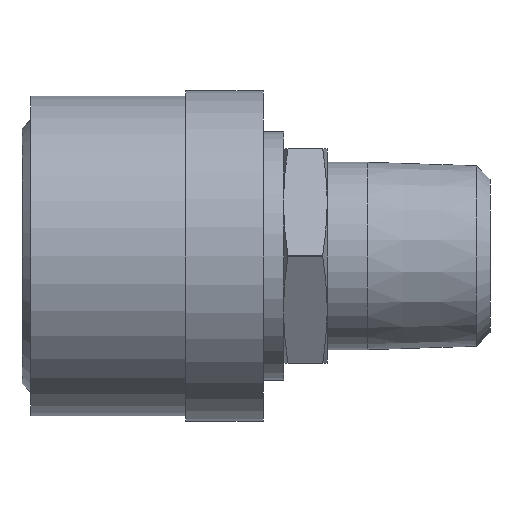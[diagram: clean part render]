
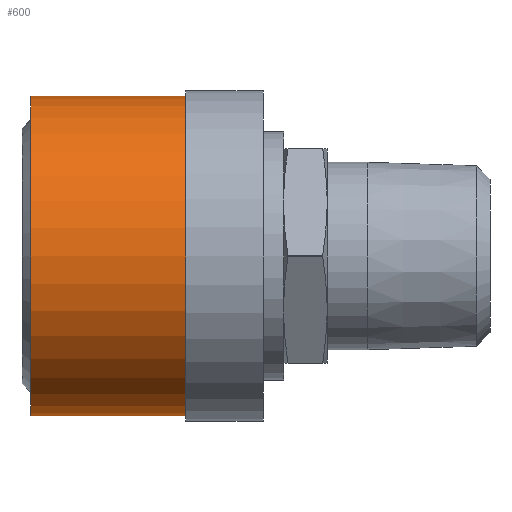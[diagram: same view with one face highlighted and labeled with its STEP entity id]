
A CAD part, front view. The second image highlights one B-rep face of the part: STEP entity #600.
In plain terms, the highlighted cylindrical face has radius 17.653 mm (diameter 35.306 mm), a full revolution.
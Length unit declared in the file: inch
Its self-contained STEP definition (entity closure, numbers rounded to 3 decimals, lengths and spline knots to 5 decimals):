
#80=CYLINDRICAL_SURFACE('',#672,0.695);
#105=CIRCLE('',#671,0.695);
#106=CIRCLE('',#673,0.695);
#184=ORIENTED_EDGE('',*,*,#336,.F.);
#185=ORIENTED_EDGE('',*,*,#335,.T.);
#335=EDGE_CURVE('',#408,#408,#105,.T.);
#336=EDGE_CURVE('',#409,#409,#106,.T.);
#408=VERTEX_POINT('',#1078);
#409=VERTEX_POINT('',#1081);
#471=EDGE_LOOP('',(#184));
#472=EDGE_LOOP('',(#185));
#530=FACE_BOUND('',#471,.T.);
#531=FACE_BOUND('',#472,.T.);
#600=ADVANCED_FACE('',(#530,#531),#80,.T.);
#671=AXIS2_PLACEMENT_3D('',#1077,#788,#789);
#672=AXIS2_PLACEMENT_3D('',#1079,#790,#791);
#673=AXIS2_PLACEMENT_3D('',#1080,#792,#793);
#788=DIRECTION('',(1.,0.,0.));
#789=DIRECTION('',(0.,0.,-1.));
#790=DIRECTION('',(1.,0.,0.));
#791=DIRECTION('',(0.,0.,-1.));
#792=DIRECTION('',(1.,0.,0.));
#793=DIRECTION('',(0.,0.,-1.));
#1077=CARTESIAN_POINT('',(0.,0.,0.));
#1078=CARTESIAN_POINT('',(0.,0.,-0.695));
#1079=CARTESIAN_POINT('',(2.,0.,0.));
#1080=CARTESIAN_POINT('',(0.675,0.,0.));
#1081=CARTESIAN_POINT('',(0.675,0.,-0.695));
